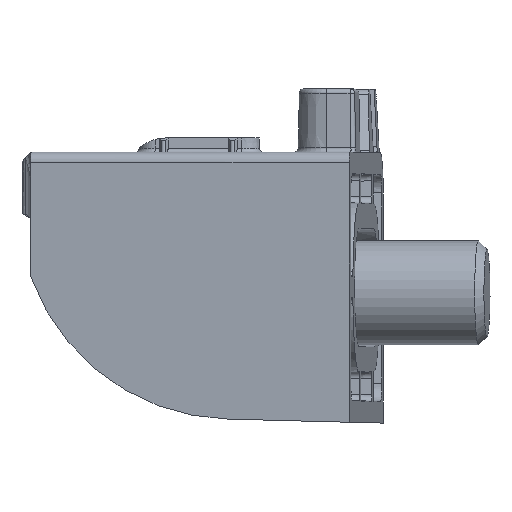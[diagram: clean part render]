
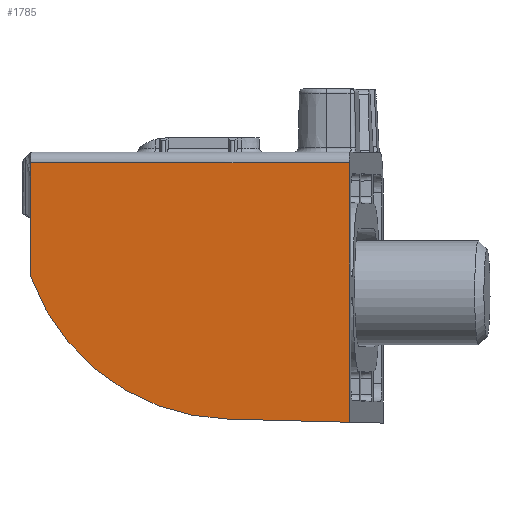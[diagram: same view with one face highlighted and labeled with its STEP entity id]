
A CAD part, top view. The second image highlights one B-rep face of the part: STEP entity #1785.
In plain terms, the highlighted planar face has unit normal (-0.096, 0, 0.995).
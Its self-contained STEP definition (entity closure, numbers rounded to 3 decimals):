
#88=ELLIPSE('',#5337,10.003,10.);
#521=FACE_OUTER_BOUND('',#2222,.T.);
#673=LINE('',#7512,#1022);
#829=LINE('',#8758,#1178);
#888=LINE('',#9354,#1237);
#889=LINE('',#9355,#1238);
#1022=VECTOR('',#6014,1.);
#1178=VECTOR('',#6694,1.);
#1237=VECTOR('',#6899,1.);
#1238=VECTOR('',#6900,1.);
#1437=PLANE('',#5659);
#1785=ADVANCED_FACE('',(#521),#1437,.F.);
#2222=EDGE_LOOP('',(#3195,#3196,#3197,#3198,#3199));
#3195=ORIENTED_EDGE('',*,*,#4871,.T.);
#3196=ORIENTED_EDGE('',*,*,#4759,.T.);
#3197=ORIENTED_EDGE('',*,*,#4872,.F.);
#3198=ORIENTED_EDGE('',*,*,#4427,.T.);
#3199=ORIENTED_EDGE('',*,*,#4394,.T.);
#3901=VERTEX_POINT('',#7513);
#3902=VERTEX_POINT('',#7514);
#3928=VERTEX_POINT('',#7638);
#4181=VERTEX_POINT('',#8753);
#4183=VERTEX_POINT('',#8757);
#4394=EDGE_CURVE('',#3901,#3902,#673,.T.);
#4427=EDGE_CURVE('',#3928,#3901,#88,.T.);
#4759=EDGE_CURVE('',#4181,#4183,#829,.T.);
#4871=EDGE_CURVE('',#3902,#4181,#888,.T.);
#4872=EDGE_CURVE('',#3928,#4183,#889,.T.);
#5337=AXIS2_PLACEMENT_3D('',#7637,#6051,#6052);
#5659=AXIS2_PLACEMENT_3D('',#9356,#6901,#6902);
#6014=DIRECTION('',(0.995,-0.026,0.096));
#6051=DIRECTION('',(-0.096,0.,0.995));
#6052=DIRECTION('',(-0.995,0.,-0.096));
#6694=DIRECTION('',(-0.995,0.,-0.096));
#6899=DIRECTION('',(0.,1.,0.));
#6900=DIRECTION('',(0.,1.,0.));
#6901=DIRECTION('',(0.096,0.,-0.995));
#6902=DIRECTION('',(-0.995,0.,-0.096));
#7512=CARTESIAN_POINT('',(261.773,-3.112,69.012));
#7513=CARTESIAN_POINT('',(256.296,-2.968,68.484));
#7514=CARTESIAN_POINT('',(261.936,-3.116,69.027));
#7637=CARTESIAN_POINT('',(256.557,7.029,68.509));
#7638=CARTESIAN_POINT('',(247.197,3.617,67.608));
#8753=CARTESIAN_POINT('',(261.936,8.884,69.027));
#8757=CARTESIAN_POINT('',(247.197,8.884,67.608));
#8758=CARTESIAN_POINT('',(247.197,8.884,67.608));
#9354=CARTESIAN_POINT('',(261.936,3.134,69.027));
#9355=CARTESIAN_POINT('',(247.197,3.134,67.608));
#9356=CARTESIAN_POINT('',(261.936,3.134,69.027));
